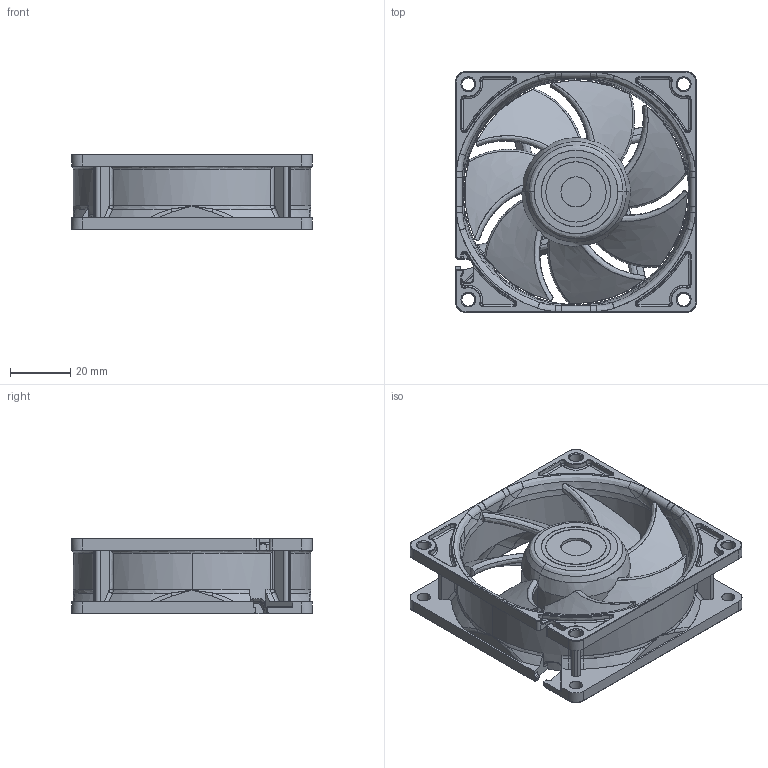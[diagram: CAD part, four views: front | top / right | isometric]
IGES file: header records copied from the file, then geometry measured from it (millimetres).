
Start section: SolidWorks IGES file using analytic representation for surfaces
Global section: file name: C:\Users\Okuda-Yuusuke\Desktop\公開用3D\★【公開用３D】80x25_9LG\80x25LG.IGS; native system: SolidWorks 2016; preprocessor: SolidWorks 2016; author: Okuda-Yuusuke; date: 170123.182706; units: millimetre
Bounding box: 80 x 80 x 25.2 mm (x, y, z)
Surface area: 33753.7 mm2 (no closed solid volume)
Topology: 0 solids, 0 shells, 825 faces, 6640 edges, 6611 vertices
Faces by surface type: bspline 515, revolution 310
